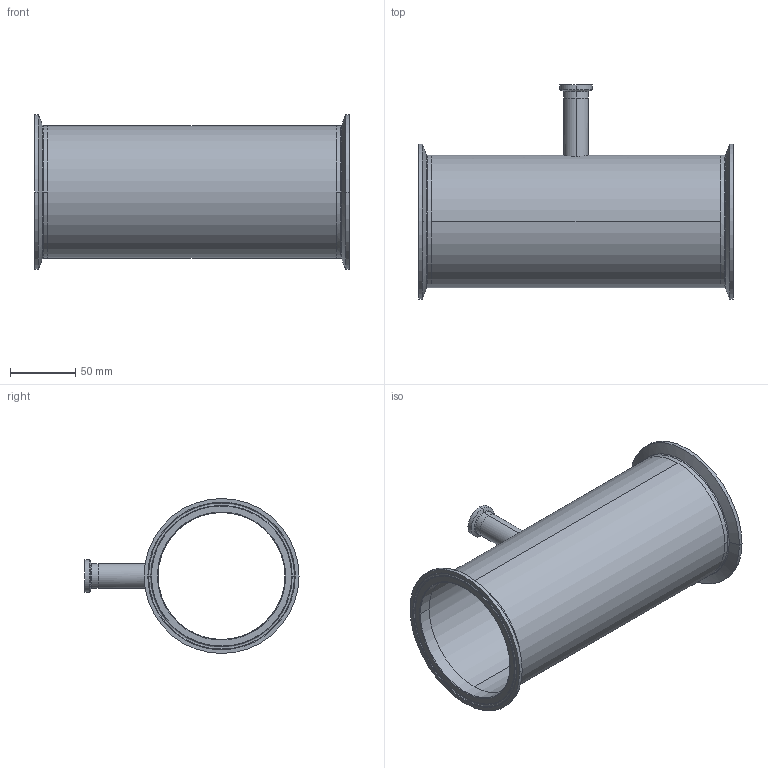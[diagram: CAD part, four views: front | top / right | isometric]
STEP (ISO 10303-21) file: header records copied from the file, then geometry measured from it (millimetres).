
FILE_DESCRIPTION (( 'STEP AP214' ), '1' );
FILE_NAME ('TEG7R6L4.0x.75-...STEP', '2016-05-24T07:23:11', ( 'eran' ), ( '' ), 'SwSTEP 2.0', 'SolidWorks 2016', '' );
FILE_SCHEMA (( 'AUTOMOTIVE_DESIGN' ));
Length unit declared in the file: millimetre
Products named in the file (1): TEG7R6L4.0x.75-..
Bounding box: 241.4 x 164.26 x 118.92 mm (x, y, z)
Volume: 189666.7 mm3; surface area: 172069.4 mm2
Topology: 4 solids, 4 shells, 84 faces, 198 edges, 126 vertices
Faces by surface type: cylinder 28, bspline 28, cone 16, plane 12
Entity records: 4091 total; most frequent: CARTESIAN_POINT 2107, DIRECTION 426, ORIENTED_EDGE 396, EDGE_CURVE 198, AXIS2_PLACEMENT_3D 191, CIRCLE 134, VERTEX_POINT 126, EDGE_LOOP 98
